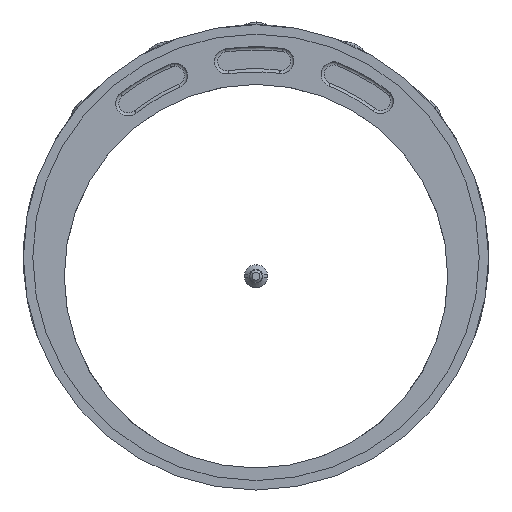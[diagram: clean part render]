
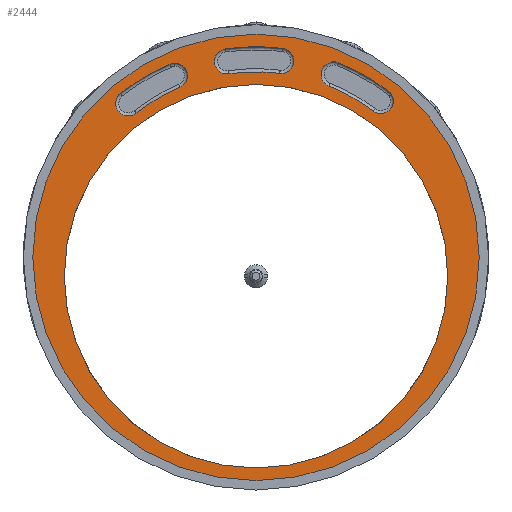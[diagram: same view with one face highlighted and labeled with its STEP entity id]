
A CAD part, left-side view. The second image highlights one B-rep face of the part: STEP entity #2444.
In plain terms, the highlighted planar face has unit normal (-1, 0, 0) as drawn and (1, 0, 0) by its records, which use the part's own axes.
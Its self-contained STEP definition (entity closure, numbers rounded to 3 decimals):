
#1649=CARTESIAN_POINT('',(0.,0.,-61.));
#1650=VERTEX_POINT('',#1649);
#1659=CARTESIAN_POINT('',(0.,61.,0.));
#1660=VERTEX_POINT('',#1659);
#1661=CARTESIAN_POINT('',(0.,0.,0.));
#1662=DIRECTION('',(-1.,0.,0.));
#1663=DIRECTION('',(0.,1.,0.));
#1664=AXIS2_PLACEMENT_3D('',#1661,#1662,#1663);
#1665=CIRCLE('',#1664,61.);
#1666=EDGE_CURVE('',#1660,#1650,#1665,.T.);
#1691=CARTESIAN_POINT('',(0.,0.,-65.));
#1692=VERTEX_POINT('',#1691);
#1710=CARTESIAN_POINT('',(0.,71.,6.));
#1711=VERTEX_POINT('',#1710);
#1718=CARTESIAN_POINT('',(0.,0.,6.));
#1719=DIRECTION('',(-1.,0.,0.));
#1720=DIRECTION('',(0.,1.,0.));
#1721=AXIS2_PLACEMENT_3D('',#1718,#1719,#1720);
#1722=CIRCLE('',#1721,71.);
#1723=EDGE_CURVE('',#1711,#1692,#1722,.T.);
#1777=CARTESIAN_POINT('',(0.,42.127,58.904));
#1778=VERTEX_POINT('',#1777);
#1803=CARTESIAN_POINT('',(0.,37.313,52.515));
#1804=VERTEX_POINT('',#1803);
#1811=CARTESIAN_POINT('',(0.,39.72,55.71));
#1812=DIRECTION('',(-1.,0.,0.));
#1813=DIRECTION('',(0.,0.866,0.5));
#1814=AXIS2_PLACEMENT_3D('',#1811,#1812,#1813);
#1815=CIRCLE('',#1814,4.);
#1816=EDGE_CURVE('',#1778,#1804,#1815,.T.);
#1828=CARTESIAN_POINT('',(0.,26.222,67.903));
#1829=VERTEX_POINT('',#1828);
#1844=CARTESIAN_POINT('',(0.,-0.,3.));
#1845=DIRECTION('',(-1.,0.,0.));
#1846=DIRECTION('',(0.,0.866,0.5));
#1847=AXIS2_PLACEMENT_3D('',#1844,#1845,#1846);
#1848=CIRCLE('',#1847,70.);
#1849=EDGE_CURVE('',#1829,#1778,#1848,.T.);
#1996=CARTESIAN_POINT('',(0.,23.226,60.485));
#1997=VERTEX_POINT('',#1996);
#2004=CARTESIAN_POINT('',(0.,-0.,3.));
#2005=DIRECTION('',(1.,0.,0.));
#2006=DIRECTION('',(0.,0.5,-0.866));
#2007=AXIS2_PLACEMENT_3D('',#2004,#2005,#2006);
#2008=CIRCLE('',#2007,62.);
#2009=EDGE_CURVE('',#1804,#1997,#2008,.T.);
#2038=CARTESIAN_POINT('',(0.,21.26,62.194));
#2039=VERTEX_POINT('',#2038);
#2046=CARTESIAN_POINT('',(0.,24.724,64.194));
#2047=DIRECTION('',(-1.,0.,0.));
#2048=DIRECTION('',(0.,0.866,0.5));
#2049=AXIS2_PLACEMENT_3D('',#2046,#2047,#2048);
#2050=CIRCLE('',#2049,4.);
#2051=EDGE_CURVE('',#1997,#2039,#2050,.T.);
#2065=CARTESIAN_POINT('',(0.,8.531,72.478));
#2066=VERTEX_POINT('',#2065);
#2091=CARTESIAN_POINT('',(0.,7.556,64.538));
#2092=VERTEX_POINT('',#2091);
#2099=CARTESIAN_POINT('',(0.,8.043,68.508));
#2100=DIRECTION('',(-1.,0.,0.));
#2101=DIRECTION('',(0.,0.5,0.866));
#2102=AXIS2_PLACEMENT_3D('',#2099,#2100,#2101);
#2103=CIRCLE('',#2102,4.);
#2104=EDGE_CURVE('',#2066,#2092,#2103,.T.);
#2116=CARTESIAN_POINT('',(0.,-9.742,72.319));
#2117=VERTEX_POINT('',#2116);
#2132=CARTESIAN_POINT('',(0.,-0.,3.));
#2133=DIRECTION('',(-1.,0.,0.));
#2134=DIRECTION('',(0.,0.5,0.866));
#2135=AXIS2_PLACEMENT_3D('',#2132,#2133,#2134);
#2136=CIRCLE('',#2135,70.);
#2137=EDGE_CURVE('',#2117,#2066,#2136,.T.);
#2284=CARTESIAN_POINT('',(0.,-8.629,64.397));
#2285=VERTEX_POINT('',#2284);
#2292=CARTESIAN_POINT('',(0.,-0.,3.));
#2293=DIRECTION('',(1.,0.,0.));
#2294=DIRECTION('',(0.,0.866,-0.5));
#2295=AXIS2_PLACEMENT_3D('',#2292,#2293,#2294);
#2296=CIRCLE('',#2295,62.);
#2297=EDGE_CURVE('',#2092,#2285,#2296,.T.);
#2326=CARTESIAN_POINT('',(0.,-11.185,64.894));
#2327=VERTEX_POINT('',#2326);
#2334=CARTESIAN_POINT('',(0.,-9.185,68.358));
#2335=DIRECTION('',(-1.,0.,0.));
#2336=DIRECTION('',(0.,0.5,0.866));
#2337=AXIS2_PLACEMENT_3D('',#2334,#2335,#2336);
#2338=CIRCLE('',#2337,4.);
#2339=EDGE_CURVE('',#2285,#2327,#2338,.T.);
#2346=CARTESIAN_POINT('',(0.,0.,0.));
#2347=DIRECTION('',(-1.,0.,0.));
#2348=DIRECTION('',(0.,0.,-1.));
#2349=AXIS2_PLACEMENT_3D('',#2346,#2347,#2348);
#2350=PLANE('',#2349);
#2351=ORIENTED_EDGE('',*,*,#1849,.T.);
#2352=ORIENTED_EDGE('',*,*,#1816,.T.);
#2353=ORIENTED_EDGE('',*,*,#2009,.T.);
#2354=ORIENTED_EDGE('',*,*,#2051,.T.);
#2355=CARTESIAN_POINT('',(0.,24.724,64.194));
#2356=DIRECTION('',(-1.,0.,0.));
#2357=DIRECTION('',(0.,0.866,0.5));
#2358=AXIS2_PLACEMENT_3D('',#2355,#2356,#2357);
#2359=CIRCLE('',#2358,4.);
#2360=EDGE_CURVE('',#2039,#1829,#2359,.T.);
#2361=ORIENTED_EDGE('',*,*,#2360,.T.);
#2362=EDGE_LOOP('',(#2351,#2352,#2353,#2354,#2361));
#2363=FACE_BOUND('',#2362,.T.);
#2364=ORIENTED_EDGE('',*,*,#2137,.T.);
#2365=ORIENTED_EDGE('',*,*,#2104,.T.);
#2366=ORIENTED_EDGE('',*,*,#2297,.T.);
#2367=ORIENTED_EDGE('',*,*,#2339,.T.);
#2368=CARTESIAN_POINT('',(0.,-9.185,68.358));
#2369=DIRECTION('',(-1.,0.,0.));
#2370=DIRECTION('',(0.,0.5,0.866));
#2371=AXIS2_PLACEMENT_3D('',#2368,#2369,#2370);
#2372=CIRCLE('',#2371,4.);
#2373=EDGE_CURVE('',#2327,#2117,#2372,.T.);
#2374=ORIENTED_EDGE('',*,*,#2373,.T.);
#2375=EDGE_LOOP('',(#2364,#2365,#2366,#2367,#2374));
#2376=FACE_BOUND('',#2375,.T.);
#2377=CARTESIAN_POINT('',(0.,-43.096,58.161));
#2378=VERTEX_POINT('',#2377);
#2379=CARTESIAN_POINT('',(0.,-27.351,67.435));
#2380=VERTEX_POINT('',#2379);
#2381=CARTESIAN_POINT('',(0.,-0.,3.));
#2382=DIRECTION('',(-1.,0.,0.));
#2383=DIRECTION('',(0.,0.,1.));
#2384=AXIS2_PLACEMENT_3D('',#2381,#2382,#2383);
#2385=CIRCLE('',#2384,70.);
#2386=EDGE_CURVE('',#2378,#2380,#2385,.T.);
#2387=ORIENTED_EDGE('',*,*,#2386,.T.);
#2388=CARTESIAN_POINT('',(0.,-24.225,60.071));
#2389=VERTEX_POINT('',#2388);
#2390=CARTESIAN_POINT('',(0.,-25.788,63.753));
#2391=DIRECTION('',(-1.,0.,0.));
#2392=DIRECTION('',(0.,0.,1.));
#2393=AXIS2_PLACEMENT_3D('',#2390,#2391,#2392);
#2394=CIRCLE('',#2393,4.);
#2395=EDGE_CURVE('',#2380,#2389,#2394,.T.);
#2396=ORIENTED_EDGE('',*,*,#2395,.T.);
#2397=CARTESIAN_POINT('',(0.,-38.171,51.857));
#2398=VERTEX_POINT('',#2397);
#2399=CARTESIAN_POINT('',(0.,-0.,3.));
#2400=DIRECTION('',(1.,0.,0.));
#2401=DIRECTION('',(-0.,1.,0.));
#2402=AXIS2_PLACEMENT_3D('',#2399,#2400,#2401);
#2403=CIRCLE('',#2402,62.);
#2404=EDGE_CURVE('',#2389,#2398,#2403,.T.);
#2405=ORIENTED_EDGE('',*,*,#2404,.T.);
#2406=CARTESIAN_POINT('',(0.,-40.634,51.009));
#2407=VERTEX_POINT('',#2406);
#2408=CARTESIAN_POINT('',(0.,-40.634,55.009));
#2409=DIRECTION('',(-1.,0.,0.));
#2410=DIRECTION('',(0.,0.,1.));
#2411=AXIS2_PLACEMENT_3D('',#2408,#2409,#2410);
#2412=CIRCLE('',#2411,4.);
#2413=EDGE_CURVE('',#2398,#2407,#2412,.T.);
#2414=ORIENTED_EDGE('',*,*,#2413,.T.);
#2415=CARTESIAN_POINT('',(0.,-40.634,55.009));
#2416=DIRECTION('',(-1.,0.,0.));
#2417=DIRECTION('',(0.,0.,1.));
#2418=AXIS2_PLACEMENT_3D('',#2415,#2416,#2417);
#2419=CIRCLE('',#2418,4.);
#2420=EDGE_CURVE('',#2407,#2378,#2419,.T.);
#2421=ORIENTED_EDGE('',*,*,#2420,.T.);
#2422=EDGE_LOOP('',(#2387,#2396,#2405,#2414,#2421));
#2423=FACE_BOUND('',#2422,.T.);
#2424=ORIENTED_EDGE('',*,*,#1666,.T.);
#2425=CARTESIAN_POINT('',(0.,0.,0.));
#2426=DIRECTION('',(-1.,0.,0.));
#2427=DIRECTION('',(0.,1.,0.));
#2428=AXIS2_PLACEMENT_3D('',#2425,#2426,#2427);
#2429=CIRCLE('',#2428,61.);
#2430=EDGE_CURVE('',#1650,#1660,#2429,.T.);
#2431=ORIENTED_EDGE('',*,*,#2430,.T.);
#2432=EDGE_LOOP('',(#2424,#2431));
#2433=FACE_BOUND('',#2432,.T.);
#2434=CARTESIAN_POINT('',(0.,0.,6.));
#2435=DIRECTION('',(-1.,0.,0.));
#2436=DIRECTION('',(0.,1.,0.));
#2437=AXIS2_PLACEMENT_3D('',#2434,#2435,#2436);
#2438=CIRCLE('',#2437,71.);
#2439=EDGE_CURVE('',#1692,#1711,#2438,.T.);
#2440=ORIENTED_EDGE('',*,*,#2439,.F.);
#2441=ORIENTED_EDGE('',*,*,#1723,.F.);
#2442=EDGE_LOOP('',(#2440,#2441));
#2443=FACE_BOUND('',#2442,.T.);
#2444=ADVANCED_FACE('',(#2363,#2376,#2423,#2433,#2443),#2350,.F.);
